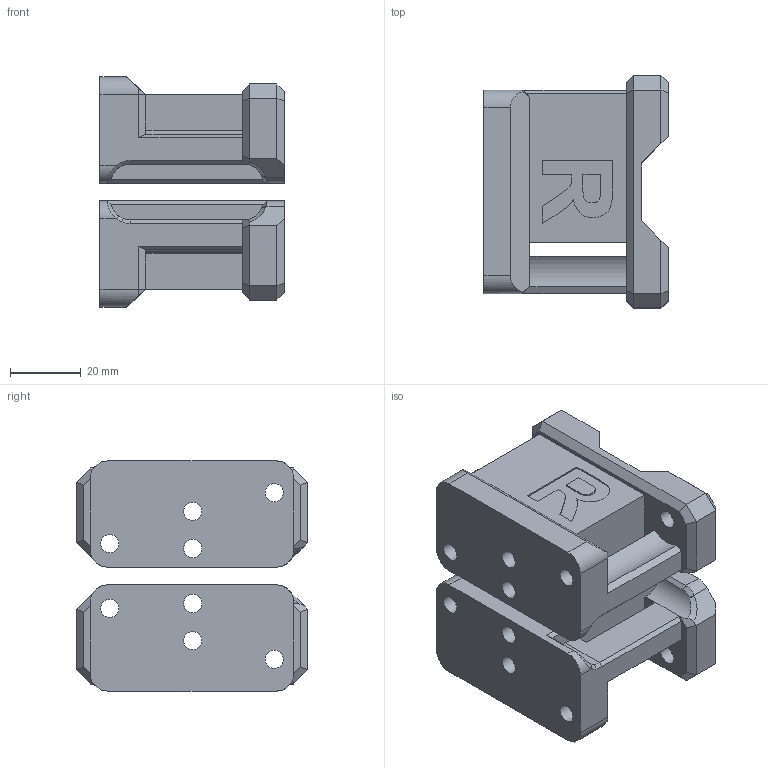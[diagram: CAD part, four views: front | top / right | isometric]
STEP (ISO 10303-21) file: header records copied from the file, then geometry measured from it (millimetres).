
FILE_DESCRIPTION(/* description */ (''),/* implementation_level */ '2;1');
FILE_NAME(/* name */ 'C:/Users/fbroise/Downloads/VC31SBstd.step',/* time_stamp */ '2022-09-12T15:15:08+02:00',/* author */ (''),/* organization */ (''),/* preprocessor_version */ 'ST-DEVELOPER v19',/* originating_system */ 'Autodesk Translation Framework v11.7.0.108',/* authorisation */ '');
FILE_SCHEMA (('AUTOMOTIVE_DESIGN { 1 0 10303 214 3 1 1 }','MODEL_BASED_INTEGRATED_MANUFACTURING_SCHEMA'));
Length unit declared in the file: millimetre
Products named in the file (1): xy_joiner_right_3.1
Bounding box: 52 x 65.5 x 65 mm (x, y, z)
Volume: 100278.6 mm3; surface area: 31860.1 mm2
Topology: 2 solids, 2 shells, 217 faces, 583 edges, 372 vertices
Faces by surface type: plane 143, cylinder 38, bspline 26, cone 10
Full cylindrical faces by diameter (mm): 5.16 x14, 5.6 x4
Entity records: 7252 total; most frequent: CARTESIAN_POINT 1855, ORIENTED_EDGE 1166, DIRECTION 997, EDGE_CURVE 583, LINE 437, VECTOR 437, VERTEX_POINT 372, AXIS2_PLACEMENT_3D 280
